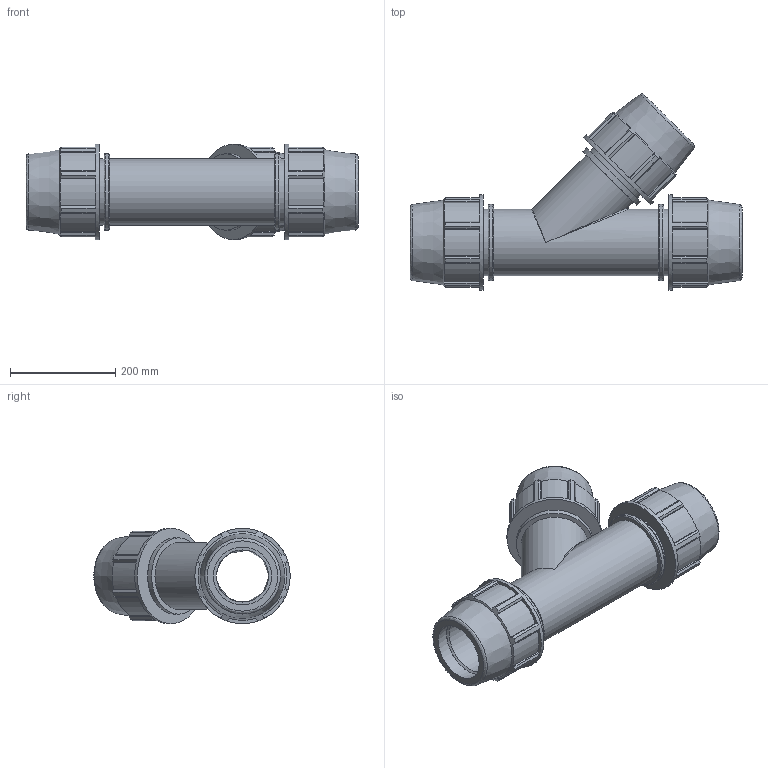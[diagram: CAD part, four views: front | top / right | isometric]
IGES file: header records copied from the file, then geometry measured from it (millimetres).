
Global section: file name: 876400110_186400110.ipt; native system: Autodesk Inventor 2015; preprocessor: unknown; author: KIM; date: 20170608.042752; units: millimetre
Bounding box: 630 x 372.72 x 181 mm (x, y, z)
Volume: 6645515.8 mm3; surface area: 791761.9 mm2
Topology: 1 solids, 1 shells, 200 faces, 569 edges, 381 vertices
Faces by surface type: plane 139, cylinder 36, revolution 17, cone 6, bspline 2
Full cylindrical faces by diameter (mm): 126.7 x5, 144.8 x3, 181 x3
